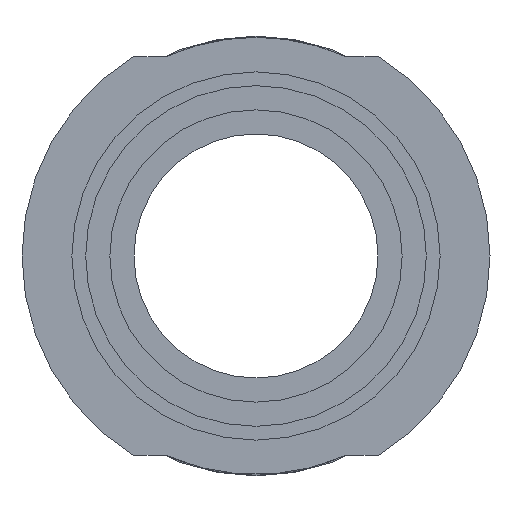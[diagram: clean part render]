
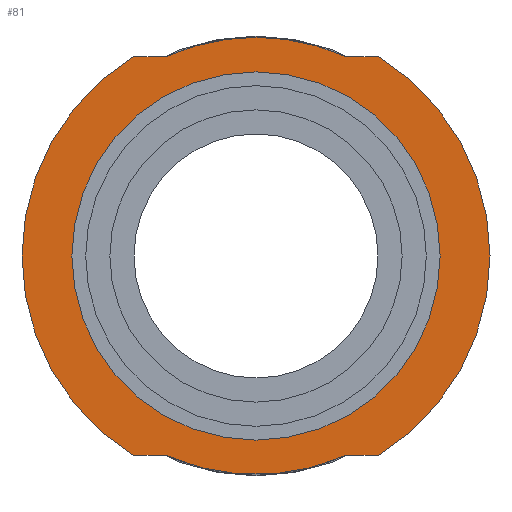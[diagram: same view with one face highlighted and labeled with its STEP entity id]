
A CAD part, left-side view. The second image highlights one B-rep face of the part: STEP entity #81.
In plain terms, the highlighted planar face has unit normal (-1, 0, 0).
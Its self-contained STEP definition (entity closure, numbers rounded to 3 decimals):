
#81 = ADVANCED_FACE( '', ( #137, #138 ), #139, .F. );
#137 = FACE_BOUND( '', #259, .T. );
#138 = FACE_OUTER_BOUND( '', #260, .T. );
#139 = PLANE( '', #261 );
#259 = EDGE_LOOP( '', ( #436 ) );
#260 = EDGE_LOOP( '', ( #437, #438, #439, #440, #441, #442, #443, #444 ) );
#261 = AXIS2_PLACEMENT_3D( '', #445, #446, #447 );
#436 = ORIENTED_EDGE( '', *, *, #698, .F. );
#437 = ORIENTED_EDGE( '', *, *, #699, .F. );
#438 = ORIENTED_EDGE( '', *, *, #700, .T. );
#439 = ORIENTED_EDGE( '', *, *, #701, .F. );
#440 = ORIENTED_EDGE( '', *, *, #702, .F. );
#441 = ORIENTED_EDGE( '', *, *, #703, .F. );
#442 = ORIENTED_EDGE( '', *, *, #704, .T. );
#443 = ORIENTED_EDGE( '', *, *, #705, .F. );
#444 = ORIENTED_EDGE( '', *, *, #706, .F. );
#445 = CARTESIAN_POINT( '', ( 0., 0., 15.25 ) );
#446 = DIRECTION( '', ( 1., 0., 0. ) );
#447 = DIRECTION( '', ( 0., 0., -1. ) );
#698 = EDGE_CURVE( '', #784, #784, #785, .T. );
#699 = EDGE_CURVE( '', #786, #787, #788, .T. );
#700 = EDGE_CURVE( '', #786, #789, #790, .T. );
#701 = EDGE_CURVE( '', #791, #789, #792, .T. );
#702 = EDGE_CURVE( '', #793, #791, #794, .T. );
#703 = EDGE_CURVE( '', #795, #793, #796, .T. );
#704 = EDGE_CURVE( '', #795, #797, #798, .T. );
#705 = EDGE_CURVE( '', #799, #797, #800, .T. );
#706 = EDGE_CURVE( '', #787, #799, #801, .T. );
#784 = VERTEX_POINT( '', #924 );
#785 = CIRCLE( '', #925, 12. );
#786 = VERTEX_POINT( '', #926 );
#787 = VERTEX_POINT( '', #927 );
#788 = LINE( '', #928, #929 );
#789 = VERTEX_POINT( '', #930 );
#790 = CIRCLE( '', #931, 15.25 );
#791 = VERTEX_POINT( '', #932 );
#792 = LINE( '', #933, #934 );
#793 = VERTEX_POINT( '', #935 );
#794 = CIRCLE( '', #936, 14.25 );
#795 = VERTEX_POINT( '', #937 );
#796 = LINE( '', #938, #939 );
#797 = VERTEX_POINT( '', #940 );
#798 = CIRCLE( '', #941, 15.25 );
#799 = VERTEX_POINT( '', #942 );
#800 = LINE( '', #943, #944 );
#801 = CIRCLE( '', #945, 14.25 );
#924 = CARTESIAN_POINT( '', ( 0., 0., 12. ) );
#925 = AXIS2_PLACEMENT_3D( '', #1087, #1088, #1089 );
#926 = CARTESIAN_POINT( '', ( 0., -7.973, -13. ) );
#927 = CARTESIAN_POINT( '', ( 0., -5.836, -13. ) );
#928 = CARTESIAN_POINT( '', ( 0., -7.973, -13. ) );
#929 = VECTOR( '', #1090, 1000. );
#930 = CARTESIAN_POINT( '', ( 0., -7.973, 13. ) );
#931 = AXIS2_PLACEMENT_3D( '', #1091, #1092, #1093 );
#932 = CARTESIAN_POINT( '', ( 0., -5.836, 13. ) );
#933 = CARTESIAN_POINT( '', ( 0., -5.836, 13. ) );
#934 = VECTOR( '', #1094, 1000. );
#935 = CARTESIAN_POINT( '', ( 0., 5.836, 13. ) );
#936 = AXIS2_PLACEMENT_3D( '', #1095, #1096, #1097 );
#937 = CARTESIAN_POINT( '', ( 0., 7.973, 13. ) );
#938 = CARTESIAN_POINT( '', ( 0., 7.973, 13. ) );
#939 = VECTOR( '', #1098, 1000. );
#940 = CARTESIAN_POINT( '', ( 0., 7.973, -13. ) );
#941 = AXIS2_PLACEMENT_3D( '', #1099, #1100, #1101 );
#942 = CARTESIAN_POINT( '', ( 0., 5.836, -13. ) );
#943 = CARTESIAN_POINT( '', ( 0., 5.836, -13. ) );
#944 = VECTOR( '', #1102, 1000. );
#945 = AXIS2_PLACEMENT_3D( '', #1103, #1104, #1105 );
#1087 = CARTESIAN_POINT( '', ( 0., 0., 0. ) );
#1088 = DIRECTION( '', ( -1., 0., 0. ) );
#1089 = DIRECTION( '', ( 0., 0., 1. ) );
#1090 = DIRECTION( '', ( 0., 1., 0. ) );
#1091 = CARTESIAN_POINT( '', ( 0., 0., 0. ) );
#1092 = DIRECTION( '', ( -1., 0., 0. ) );
#1093 = DIRECTION( '', ( 0., 0., 1. ) );
#1094 = DIRECTION( '', ( 0., -1., 0. ) );
#1095 = CARTESIAN_POINT( '', ( 0., 0., 0. ) );
#1096 = DIRECTION( '', ( 1., 0., 0. ) );
#1097 = DIRECTION( '', ( 0., 0., -1. ) );
#1098 = DIRECTION( '', ( 0., -1., 0. ) );
#1099 = CARTESIAN_POINT( '', ( 0., 0., 0. ) );
#1100 = DIRECTION( '', ( -1., 0., 0. ) );
#1101 = DIRECTION( '', ( 0., 0., 1. ) );
#1102 = DIRECTION( '', ( 0., 1., 0. ) );
#1103 = CARTESIAN_POINT( '', ( 0., 0., 0. ) );
#1104 = DIRECTION( '', ( 1., 0., 0. ) );
#1105 = DIRECTION( '', ( 0., 0., 1. ) );
